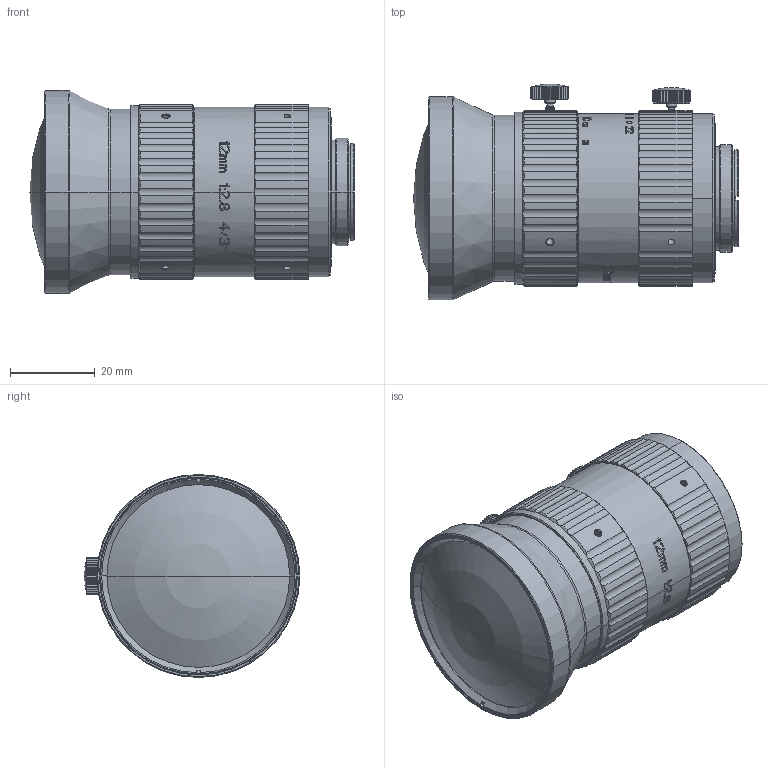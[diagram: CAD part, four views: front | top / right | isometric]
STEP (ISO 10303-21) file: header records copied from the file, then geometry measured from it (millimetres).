
FILE_DESCRIPTION((''),'2;1');
FILE_NAME('200_ASM_ASM','2021-01-22T',('Administrator'),(''),'PRO/ENGINEER BY PARAMETRIC TECHNOLOGY CORPORATION, 2010370','PRO/ENGINEER BY PARAMETRIC TECHNOLOGY CORPORATION, 2010370','');
FILE_SCHEMA(('CONFIG_CONTROL_DESIGN'));
Length unit declared in the file: millimetre
Products named in the file (18): MSBR-82; MSBR-81; MSBR-80; MSBR-79; MSBR-72; MSBR-71; MSBR-70; MSBR-69; MSBR-68; MSBR-67; MSBR-65; MSBR-64; MSBR-63; MSBR-62; MSBR-61; MSBR-48; MSBR-47; 200_ASM_ASM
Assembly tree (17 placements, depth 2):
  200_ASM_ASM
    MSBR-82
    MSBR-81
    MSBR-80
    MSBR-79
    MSBR-72
    MSBR-71
    MSBR-70
    MSBR-69
    MSBR-68
    MSBR-67
    MSBR-65
    MSBR-64
    MSBR-63
    MSBR-62
    MSBR-61
    MSBR-48
    MSBR-47
Bounding box: 76.75 x 50.99 x 48 mm (x, y, z)
Volume: 34376 mm3; surface area: 35008.7 mm2
Topology: 17 solids, 17 shells, 2134 faces, 5826 edges, 3796 vertices
Faces by surface type: plane 833, bspline 513, cylinder 453, cone 307, torus 16, sphere 12
Entity records: 90422 total; most frequent: CARTESIAN_POINT 40392, ORIENTED_EDGE 11628, DIRECTION 8692, EDGE_CURVE 5814, VERTEX_POINT 3796, AXIS2_PLACEMENT_3D 3533, B_SPLINE_CURVE_WITH_KNOTS 2311, EDGE_LOOP 2266
